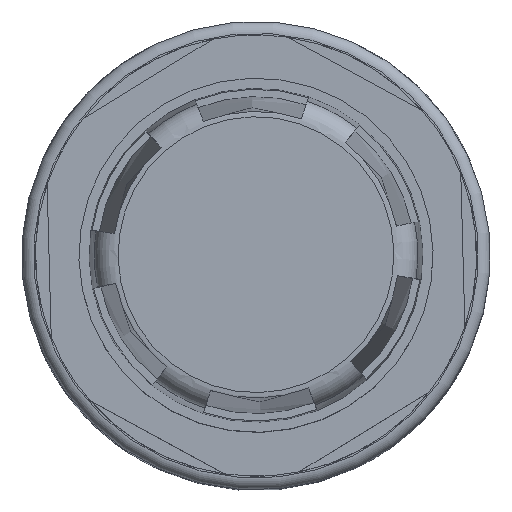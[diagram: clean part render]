
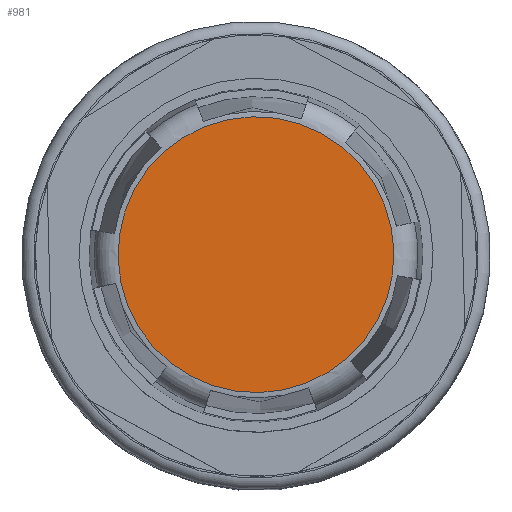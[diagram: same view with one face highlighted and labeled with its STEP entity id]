
A CAD part, top view. The second image highlights one B-rep face of the part: STEP entity #981.
In plain terms, the highlighted planar face has unit normal (0, 0, 1) as drawn and (0, 0, -1) by its records, which use the part's own axes.
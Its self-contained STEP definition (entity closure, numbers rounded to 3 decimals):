
#732=CARTESIAN_POINT('',(-11.569,0.,-46.15));
#733=VERTEX_POINT('',#732);
#734=CARTESIAN_POINT('',(0.0,0.0,-46.15));
#735=DIRECTION('',(0.0,0.0,1.0));
#736=DIRECTION('',(1.0,0.0,0.0));
#737=AXIS2_PLACEMENT_3D('',#734,#735,#736);
#738=CIRCLE('',#737,11.569);
#739=EDGE_CURVE('',#733,#733,#738,.T.);
#973=CARTESIAN_POINT('',(0.0,0.0,-46.15));
#974=DIRECTION('',(0.0,0.0,1.0));
#975=DIRECTION('',(1.0,0.0,0.0));
#976=AXIS2_PLACEMENT_3D('',#973,#974,#975);
#977=PLANE('',#976);
#978=ORIENTED_EDGE('',*,*,#739,.F.);
#979=EDGE_LOOP('',(#978));
#980=FACE_OUTER_BOUND('',#979,.T.);
#981=ADVANCED_FACE('',(#980),#977,.F.);
